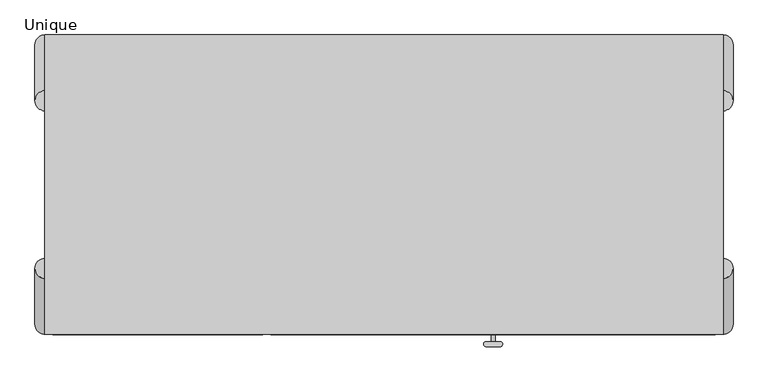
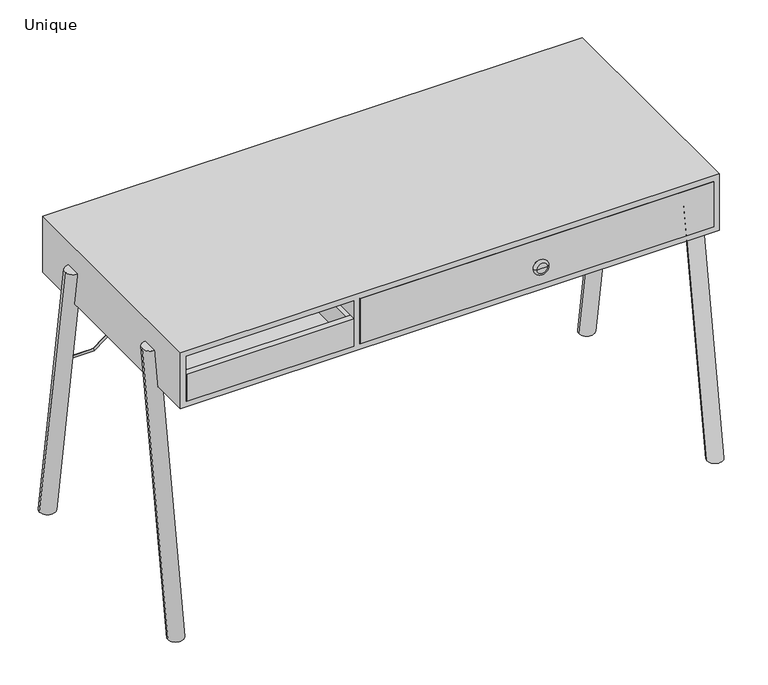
"""IFC4 building model written with IfcOpenShell, lengths in millimetres: furniture geometry, Folio Desk : Unique."""

from ifc_helpers import new_model, si_unit, point, frame, origin, place, context, project, spatial, polyline, circle_curve, ellipse_curve, trimmed, outline, extrude, source, transform, mapped, element, save
from ifc_brep_helpers import plane_surface, cylinder_surface, revolved_surface, extruded_surface, advanced_brep


def unique_a72083e6(model_context):
    return source(origin(), model_context, "Body", "SolidModel", [
        extrude(outline(polyline([(-252.5, -25.0), (-655.0, -25.0), (-655.0, -15.0), (-252.5, -15.0), (-252.5, -25.0)])), frame((0.0, 0.0, 645.0), z_axis=(0.0, 0.0, 1.0), x_axis=(1.0, 0.0, 0.0)), (0.0, 0.0, 1.0), 63.0),
        advanced_brep(
        [(222.75, -601.0, 695.0), (214.75, -601.0, 695.0), (218.75, -601.0, 695.0), (222.75, -615.0, 695.0), (214.75, -615.0, 695.0), (232.75, -615.0, 695.0), (204.75, -615.0, 695.0), (232.75, -625.0, 695.0), (204.75, -625.0, 695.0), (218.75, -625.0, 695.0)],
        [
            (0, 1, circle_curve(frame((218.75, -601.0, 695.0), z_axis=(0.0, 1.0, 0.0), x_axis=(-1.0, 0.0, 0.0)), 4.0)),
            (1, 2),
            (2, 0),
            (1, 0, circle_curve(frame((218.75, -601.0, 695.0), z_axis=(0.0, 1.0, 0.0), x_axis=(-1.0, 0.0, 0.0)), 4.0)),
            (3, 4, circle_curve(frame((218.75, -615.0, 695.0), z_axis=(0.0, 1.0, 0.0), x_axis=(-1.0, 0.0, 0.0)), 4.0)),
            (4, 1),
            (0, 3),
            (4, 3, circle_curve(frame((218.75, -615.0, 695.0), z_axis=(0.0, 1.0, 0.0), x_axis=(-1.0, 0.0, 0.0)), 4.0)),
            (5, 6, circle_curve(frame((218.75, -615.0, 695.0), z_axis=(0.0, 1.0, 0.0), x_axis=(-1.0, 0.0, 0.0)), 14.0)),
            (6, 4),
            (3, 5),
            (6, 5, circle_curve(frame((218.75, -615.0, 695.0), z_axis=(0.0, 1.0, 0.0), x_axis=(-1.0, 0.0, 0.0)), 14.0)),
            (7, 8, circle_curve(frame((218.75, -625.0, 695.0), z_axis=(0.0, 1.0, 0.0), x_axis=(-1.0, 0.0, 0.0)), 14.0)),
            (8, 6, circle_curve(frame((204.75, -620.0, 695.0), z_axis=(0.0, 0.0, -1.0), x_axis=(1.0, 0.0, 0.0)), 5.0)),
            (5, 7, circle_curve(frame((232.75, -620.0, 695.0), z_axis=(0.0, 0.0, -1.0), x_axis=(-1.0, 0.0, 0.0)), 5.0)),
            (8, 7, circle_curve(frame((218.75, -625.0, 695.0), z_axis=(0.0, 1.0, 0.0), x_axis=(-1.0, 0.0, 0.0)), 14.0)),
            (9, 8),
            (7, 9),
        ],
        [
            plane_surface(frame((218.75, -601.0, 695.0), z_axis=(0.0, 1.0, 0.0), x_axis=(-1.0, 0.0, 0.0))),
            cylinder_surface(frame((218.75, -601.0, 695.0), z_axis=(0.0, -1.0, 0.0), x_axis=(-1.0, 0.0, 0.0)), 4.0),
            plane_surface(frame((218.75, -615.0, 695.0), z_axis=(0.0, 1.0, 0.0), x_axis=(-1.0, 0.0, 0.0))),
            revolved_surface(trimmed(ellipse_curve(frame((204.75, -620.0, 695.0), z_axis=(0.0, 0.0, 1.0), x_axis=(1.0, 0.0, 0.0)), 5.0, 5.0), [point((204.75, -615.0, 695.0))], [point((204.75, -625.0, 695.0))], True, "CARTESIAN"), (218.75, -601.0, 695.0), (0.0, -1.0, 0.0)),
            plane_surface(frame((218.75, -625.0, 695.0), z_axis=(0.0, -1.0, 0.0), x_axis=(-1.0, 0.0, 0.0))),
        ],
        [
            (0, [[1, 2, 3]]),
            (0, [[4, -3, -2]]),
            (1, [[5, 6, -1, 7]]),
            (1, [[8, -7, -4, -6]]),
            (2, [[9, 10, -5, 11]]),
            (2, [[12, -11, -8, -10]]),
            (3, [[13, 14, -9, 15]]),
            (3, [[16, -15, -12, -14]]),
            (4, [[17, -13, 18]]),
            (4, [[-18, -16, -17]]),
        ],
    ),
        extrude(outline(polyline([(664.5, -601.0), (-227.0, -601.0), (-227.0, -586.0), (664.5, -586.0), (664.5, -601.0)])), frame((0.0, 0.0, 635.0), z_axis=(0.0, 0.0, 1.0), x_axis=(1.0, 0.0, 0.0)), (0.0, 0.0, 1.0), 120.0),
        extrude(outline(polyline([(-243.0, -601.0), (-664.5, -601.0), (-664.5, -586.0), (-243.0, -586.0), (-243.0, -601.0)])), frame((0.0, 0.0, 635.0), z_axis=(0.0, 0.0, 1.0), x_axis=(1.0, 0.0, 0.0)), (0.0, 0.0, 1.0), 73.0),
        extrude(outline(polyline([(635.0, -227.5), (635.0, 665.0), (755.0, 665.0), (755.0, 655.0), (645.0, 655.0), (645.0, -217.5), (755.0, -217.5), (755.0, -227.5), (635.0, -227.5)])), frame((0.0, -586.0, 0.0), z_axis=(0.0, 1.0, 0.0), x_axis=(0.0, 0.0, 1.0)), (0.0, 0.0, 1.0), 571.0),
        extrude(outline(polyline([(635.0, -664.5), (635.0, -243.0), (708.0, -243.0), (708.0, -252.5), (645.0, -252.5), (645.0, -655.0), (708.0, -655.0), (708.0, -664.5), (635.0, -664.5)])), frame((0.0, -586.0, 0.0), z_axis=(0.0, 1.0, 0.0), x_axis=(0.0, 0.0, 1.0)), (0.0, 0.0, 1.0), 571.0),
        advanced_brep(
        [(665.0, -91.0, 445.5), (665.0, -91.0, 440.5), (604.1635117, -91.0, 440.5), (605.8364883, -91.0, 445.5), (351.7119318, -91.0, 636.9965888), (348.7028567, -91.0, 633.0034112)],
        [
            (0, 1, circle_curve(frame((665.0, -91.0, 443.0), z_axis=(1.0, 0.0, 0.0), x_axis=(0.0, 0.0, -1.0)), 2.5)),
            (1, 0, circle_curve(frame((665.0, -91.0, 443.0), z_axis=(1.0, 0.0, 0.0), x_axis=(0.0, 0.0, -1.0)), 2.5)),
            (1, 2),
            (2, 3, ellipse_curve(frame((605.0, -91.0, 443.0), z_axis=(0.9483236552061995, 0.0, -0.31730465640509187), x_axis=(0.31730465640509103, 0.0, 0.9483236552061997)), 2.6362308, 2.5)),
            (3, 0),
            (3, 2, ellipse_curve(frame((605.0, -91.0, 443.0), z_axis=(0.9483236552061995, 0.0, -0.31730465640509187), x_axis=(0.31730465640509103, 0.0, 0.9483236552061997)), 2.6362308, 2.5)),
            (4, 5, circle_curve(frame((350.2073942, -91.0, 635.0), z_axis=(-0.7986355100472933, 0.0, 0.6018150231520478), x_axis=(-0.6018150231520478, 0.0, -0.7986355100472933)), 2.5)),
            (5, 4, circle_curve(frame((350.2073942, -91.0, 635.0), z_axis=(-0.7986355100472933, 0.0, 0.6018150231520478), x_axis=(-0.6018150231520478, 0.0, -0.7986355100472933)), 2.5)),
            (2, 5),
            (4, 3),
        ],
        [
            plane_surface(frame((665.0, -91.0, 443.0), z_axis=(1.0, 0.0, 0.0), x_axis=(0.0, -1.0, 0.0))),
            cylinder_surface(frame((665.0, -91.0, 443.0), z_axis=(1.0, 0.0, 0.0), x_axis=(0.0, 0.0, -1.0)), 2.5),
            plane_surface(frame((350.2073942, -91.0, 635.0), z_axis=(-0.7986355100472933, 0.0, 0.6018150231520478), x_axis=(0.0, -1.0, 0.0))),
            cylinder_surface(frame((605.0, -91.0, 443.0), z_axis=(0.7986355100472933, 0.0, -0.6018150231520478), x_axis=(-0.6018150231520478, 0.0, -0.7986355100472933)), 2.5),
        ],
        [
            (0, [[1, 2]]),
            (1, [[-2, 3, 4, 5]]),
            (1, [[-1, -5, 6, -3]]),
            (2, [[7, 8]]),
            (3, [[-4, 9, -7, 10]]),
            (3, [[-6, -10, -8, -9]]),
        ],
    ),
        advanced_brep(
        [(-665.0, -91.0, 440.5), (-665.0, -91.0, 445.5), (-604.1635117, -91.0, 440.5), (-605.8364883, -91.0, 445.5), (-348.7028567, -91.0, 633.0034112), (-351.7119318, -91.0, 636.9965888)],
        [
            (0, 1, circle_curve(frame((-665.0, -91.0, 443.0), z_axis=(-1.0, 0.0, 0.0), x_axis=(0.0, 0.0, 1.0)), 2.5)),
            (1, 0, circle_curve(frame((-665.0, -91.0, 443.0), z_axis=(-1.0, 0.0, 0.0), x_axis=(0.0, 0.0, 1.0)), 2.5)),
            (0, 2),
            (2, 3, ellipse_curve(frame((-605.0, -91.0, 443.0), z_axis=(-0.9483236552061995, 0.0, -0.31730465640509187), x_axis=(-0.31730465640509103, 0.0, 0.9483236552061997)), 2.6362308, 2.5)),
            (3, 1),
            (3, 2, ellipse_curve(frame((-605.0, -91.0, 443.0), z_axis=(-0.9483236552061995, 0.0, -0.31730465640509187), x_axis=(-0.31730465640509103, 0.0, 0.9483236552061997)), 2.6362308, 2.5)),
            (4, 5, circle_curve(frame((-350.2073942, -91.0, 635.0), z_axis=(0.7986355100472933, 0.0, 0.6018150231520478), x_axis=(-0.6018150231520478, 0.0, 0.7986355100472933)), 2.5)),
            (5, 4, circle_curve(frame((-350.2073942, -91.0, 635.0), z_axis=(0.7986355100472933, 0.0, 0.6018150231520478), x_axis=(-0.6018150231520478, 0.0, 0.7986355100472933)), 2.5)),
            (2, 4),
            (5, 3),
        ],
        [
            plane_surface(frame((-665.0, -91.0, 443.0), z_axis=(-1.0, 0.0, 0.0), x_axis=(0.0, -1.0, 0.0))),
            cylinder_surface(frame((-665.0, -91.0, 443.0), z_axis=(-1.0, 0.0, 0.0), x_axis=(0.0, 0.0, 1.0)), 2.5),
            plane_surface(frame((-350.2073942, -91.0, 635.0), z_axis=(0.7986355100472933, 0.0, 0.6018150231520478), x_axis=(0.0, -1.0, 0.0))),
            cylinder_surface(frame((-605.0, -91.0, 443.0), z_axis=(-0.7986355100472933, 0.0, -0.6018150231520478), x_axis=(-0.6018150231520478, 0.0, 0.7986355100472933)), 2.5),
        ],
        [
            (0, [[1, 2]]),
            (1, [[-1, 3, 4, 5]]),
            (1, [[-2, -5, 6, -3]]),
            (2, [[7, 8]]),
            (3, [[-4, 9, -8, 10]]),
            (3, [[-6, -10, -7, -9]]),
        ],
    ),
        extrude(outline(polyline([(-242.5, -15.0), (-665.0, -15.0), (-665.0, 0.0), (-242.5, 0.0), (-242.5, -15.0)])), frame((0.0, 0.0, 635.0), z_axis=(0.0, 0.0, 1.0), x_axis=(1.0, 0.0, 0.0)), (0.0, 0.0, 1.0), 120.0),
        extrude(outline(polyline([(665.0, -15.0), (-227.5, -15.0), (-227.5, 0.0), (665.0, 0.0), (665.0, -15.0)])), frame((0.0, 0.0, 635.0), z_axis=(0.0, 0.0, 1.0), x_axis=(1.0, 0.0, 0.0)), (0.0, 0.0, 1.0), 120.0),
        advanced_brep(
        [(700.0, -132.0, 708.0), (680.0, -112.0, 708.0), (680.0, -152.0, 708.0), (700.0, -20.0, 0.0), (660.0, -20.0, 0.0), (660.0, -118.079096, 620.0), (680.0, -98.079096, 620.0), (680.0, -138.079096, 620.0)],
        [
            (0, 1, circle_curve(frame((680.0, -132.0, 708.0), z_axis=(0.0, 0.0, 1.0), x_axis=(-1.0, 0.0, 0.0)), 20.0)),
            (1, 2),
            (2, 0, circle_curve(frame((680.0, -132.0, 708.0), z_axis=(0.0, 0.0, 1.0), x_axis=(-1.0, 0.0, 0.0)), 20.0)),
            (3, 4, circle_curve(frame((680.0, -20.0, 0.0), z_axis=(0.0, 0.0, -1.0), x_axis=(-1.0, 0.0, 0.0)), 20.0)),
            (4, 3, circle_curve(frame((680.0, -20.0, 0.0), z_axis=(0.0, 0.0, -1.0), x_axis=(-1.0, 0.0, 0.0)), 20.0)),
            (4, 5),
            (5, 6, circle_curve(frame((680.0, -118.079096, 620.0), z_axis=(0.0, 0.0, -1.0), x_axis=(-1.0, 0.0, 0.0)), 20.0)),
            (6, 1),
            (0, 3),
            (2, 7),
            (7, 5, circle_curve(frame((680.0, -118.079096, 620.0), z_axis=(0.0, 0.0, -1.0), x_axis=(-1.0, 0.0, 0.0)), 20.0)),
            (6, 7),
        ],
        [
            plane_surface(frame((680.0, -132.0, 708.0), z_axis=(0.0, 0.0, 1.0), x_axis=(0.0, 1.0, 0.0))),
            plane_surface(frame((680.0, -20.0, 0.0), z_axis=(0.0, 0.0, -1.0), x_axis=(0.0, 1.0, 0.0))),
            extruded_surface(trimmed(circle_curve(frame((680.0, -20.0, 0.0), z_axis=(0.0, 0.0, 1.0), x_axis=(-1.0, 0.0, 0.0)), 20.0), [point((700.0, -20.0, 0.0))], [point((660.0, -20.0, 0.0))], True, "CARTESIAN"), (0.0, -112.0, 708.0), 716.8040178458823),
            extruded_surface(trimmed(circle_curve(frame((680.0, -20.0, 0.0), z_axis=(0.0, 0.0, 1.0), x_axis=(-1.0, 0.0, 0.0)), 20.0), [point((660.0, -20.0, 0.0))], [point((700.0, -20.0, 0.0))], True, "CARTESIAN"), (0.0, -112.0, 708.0), 716.8040178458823),
            plane_surface(frame((680.0, 0.0, 770.0), z_axis=(-1.0, 0.0, 0.0), x_axis=(0.0, -1.0, 0.0))),
            plane_surface(frame((680.0, 0.0, 620.0), z_axis=(0.0, 0.0, 1.0), x_axis=(0.0, -1.0, 0.0))),
        ],
        [
            (0, [[1, 2, 3]]),
            (1, [[4, 5]]),
            (2, [[-5, 6, 7, 8, -1, 9]]),
            (3, [[-4, -9, -3, 10, 11, -6]]),
            (4, [[12, -10, -2, -8]]),
            (5, [[-12, -7, -11]]),
        ],
    ),
        advanced_brep(
        [(680.0, -488.0, 708.0), (700.0, -468.0, 708.0), (680.0, -448.0, 708.0), (700.0, -580.0, 0.0), (660.0, -580.0, 0.0), (680.0, -501.920904, 620.0), (660.0, -481.920904, 620.0), (680.0, -461.920904, 620.0)],
        [
            (0, 1, circle_curve(frame((680.0, -468.0, 708.0), z_axis=(0.0, 0.0, 1.0), x_axis=(-1.0, 0.0, 0.0)), 20.0)),
            (1, 2, circle_curve(frame((680.0, -468.0, 708.0), z_axis=(0.0, 0.0, 1.0), x_axis=(-1.0, 0.0, 0.0)), 20.0)),
            (2, 0),
            (3, 4, circle_curve(frame((680.0, -580.0, 0.0), z_axis=(0.0, 0.0, -1.0), x_axis=(-1.0, 0.0, 0.0)), 20.0)),
            (4, 3, circle_curve(frame((680.0, -580.0, 0.0), z_axis=(0.0, 0.0, -1.0), x_axis=(-1.0, 0.0, 0.0)), 20.0)),
            (3, 1),
            (0, 5),
            (5, 6, circle_curve(frame((680.0, -481.920904, 620.0), z_axis=(0.0, 0.0, -1.0), x_axis=(-1.0, 0.0, 0.0)), 20.0)),
            (6, 4),
            (6, 7, circle_curve(frame((680.0, -481.920904, 620.0), z_axis=(0.0, 0.0, -1.0), x_axis=(-1.0, 0.0, 0.0)), 20.0)),
            (7, 2),
            (7, 5),
        ],
        [
            plane_surface(frame((680.0, -468.0, 708.0), z_axis=(0.0, 0.0, 1.0), x_axis=(0.0, 1.0, 0.0))),
            plane_surface(frame((680.0, -580.0, 0.0), z_axis=(0.0, 0.0, -1.0), x_axis=(0.0, 1.0, 0.0))),
            extruded_surface(trimmed(circle_curve(frame((680.0, -580.0, 0.0), z_axis=(0.0, 0.0, 1.0), x_axis=(-1.0, 0.0, 0.0)), 20.0), [point((660.0, -580.0, 0.0))], [point((700.0, -580.0, 0.0))], True, "CARTESIAN"), (0.0, 112.0, 708.0), 716.8040178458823),
            extruded_surface(trimmed(circle_curve(frame((680.0, -580.0, 0.0), z_axis=(0.0, 0.0, 1.0), x_axis=(-1.0, 0.0, 0.0)), 20.0), [point((700.0, -580.0, 0.0))], [point((660.0, -580.0, 0.0))], True, "CARTESIAN"), (0.0, 112.0, 708.0), 716.8040178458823),
            plane_surface(frame((680.0, 0.0, 770.0), z_axis=(-1.0, 0.0, 0.0), x_axis=(0.0, -1.0, 0.0))),
            plane_surface(frame((680.0, 0.0, 620.0), z_axis=(0.0, 0.0, 1.0), x_axis=(0.0, -1.0, 0.0))),
        ],
        [
            (0, [[1, 2, 3]]),
            (1, [[4, 5]]),
            (2, [[-4, 6, -1, 7, 8, 9]]),
            (3, [[-5, -9, 10, 11, -2, -6]]),
            (4, [[12, -7, -3, -11]]),
            (5, [[-12, -10, -8]]),
        ],
    ),
        advanced_brep(
        [(-680.0, -112.0, 708.0), (-700.0, -132.0, 708.0), (-680.0, -152.0, 708.0), (-700.0, -20.0, 0.0), (-660.0, -20.0, 0.0), (-680.0, -98.079096, 620.0), (-660.0, -118.079096, 620.0), (-680.0, -138.079096, 620.0)],
        [
            (0, 1, circle_curve(frame((-680.0, -132.0, 708.0), z_axis=(0.0, 0.0, 1.0), x_axis=(1.0, 0.0, 0.0)), 20.0)),
            (1, 2, circle_curve(frame((-680.0, -132.0, 708.0), z_axis=(0.0, 0.0, 1.0), x_axis=(1.0, 0.0, 0.0)), 20.0)),
            (2, 0),
            (3, 4, circle_curve(frame((-680.0, -20.0, 0.0), z_axis=(0.0, 0.0, -1.0), x_axis=(1.0, 0.0, 0.0)), 20.0)),
            (4, 3, circle_curve(frame((-680.0, -20.0, 0.0), z_axis=(0.0, 0.0, -1.0), x_axis=(1.0, 0.0, 0.0)), 20.0)),
            (3, 1),
            (0, 5),
            (5, 6, circle_curve(frame((-680.0, -118.079096, 620.0), z_axis=(0.0, 0.0, -1.0), x_axis=(1.0, 0.0, 0.0)), 20.0)),
            (6, 4),
            (6, 7, circle_curve(frame((-680.0, -118.079096, 620.0), z_axis=(0.0, 0.0, -1.0), x_axis=(1.0, 0.0, 0.0)), 20.0)),
            (7, 2),
            (5, 7),
        ],
        [
            plane_surface(frame((-680.0, -132.0, 708.0), z_axis=(0.0, 0.0, 1.0), x_axis=(0.0, -1.0, 0.0))),
            plane_surface(frame((-680.0, -20.0, 0.0), z_axis=(0.0, 0.0, -1.0), x_axis=(0.0, -1.0, 0.0))),
            extruded_surface(trimmed(circle_curve(frame((-680.0, -20.0, 0.0), z_axis=(0.0, 0.0, 1.0), x_axis=(1.0, 0.0, 0.0)), 20.0), [point((-660.0, -20.0, 0.0))], [point((-700.0, -20.0, 0.0))], True, "CARTESIAN"), (0.0, -112.0, 708.0), 716.8040178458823),
            extruded_surface(trimmed(circle_curve(frame((-680.0, -20.0, 0.0), z_axis=(0.0, 0.0, 1.0), x_axis=(1.0, 0.0, 0.0)), 20.0), [point((-700.0, -20.0, 0.0))], [point((-660.0, -20.0, 0.0))], True, "CARTESIAN"), (0.0, -112.0, 708.0), 716.8040178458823),
            plane_surface(frame((-617.2983557, 0.0, 620.0), z_axis=(0.0, 0.0, 1.0), x_axis=(0.0, -1.0, 0.0))),
            plane_surface(frame((-680.0, 0.0, 620.0), z_axis=(1.0, 0.0, 0.0), x_axis=(0.0, -1.0, 0.0))),
        ],
        [
            (0, [[1, 2, 3]]),
            (1, [[4, 5]]),
            (2, [[-4, 6, -1, 7, 8, 9]]),
            (3, [[-5, -9, 10, 11, -2, -6]]),
            (4, [[12, -10, -8]]),
            (5, [[-12, -7, -3, -11]]),
        ],
    ),
        advanced_brep(
        [(-700.0, -468.0, 708.0), (-680.0, -488.0, 708.0), (-680.0, -448.0, 708.0), (-700.0, -580.0, 0.0), (-660.0, -580.0, 0.0), (-660.0, -481.920904, 620.0), (-680.0, -501.920904, 620.0), (-680.0, -461.920904, 620.0)],
        [
            (0, 1, circle_curve(frame((-680.0, -468.0, 708.0), z_axis=(0.0, 0.0, 1.0), x_axis=(1.0, 0.0, 0.0)), 20.0)),
            (1, 2),
            (2, 0, circle_curve(frame((-680.0, -468.0, 708.0), z_axis=(0.0, 0.0, 1.0), x_axis=(1.0, 0.0, 0.0)), 20.0)),
            (3, 4, circle_curve(frame((-680.0, -580.0, 0.0), z_axis=(0.0, 0.0, -1.0), x_axis=(1.0, 0.0, 0.0)), 20.0)),
            (4, 3, circle_curve(frame((-680.0, -580.0, 0.0), z_axis=(0.0, 0.0, -1.0), x_axis=(1.0, 0.0, 0.0)), 20.0)),
            (4, 5),
            (5, 6, circle_curve(frame((-680.0, -481.920904, 620.0), z_axis=(0.0, 0.0, -1.0), x_axis=(1.0, 0.0, 0.0)), 20.0)),
            (6, 1),
            (0, 3),
            (2, 7),
            (7, 5, circle_curve(frame((-680.0, -481.920904, 620.0), z_axis=(0.0, 0.0, -1.0), x_axis=(1.0, 0.0, 0.0)), 20.0)),
            (7, 6),
        ],
        [
            plane_surface(frame((-680.0, -468.0, 708.0), z_axis=(0.0, 0.0, 1.0), x_axis=(0.0, -1.0, 0.0))),
            plane_surface(frame((-680.0, -580.0, 0.0), z_axis=(0.0, 0.0, -1.0), x_axis=(0.0, -1.0, 0.0))),
            extruded_surface(trimmed(circle_curve(frame((-680.0, -580.0, 0.0), z_axis=(0.0, 0.0, 1.0), x_axis=(1.0, 0.0, 0.0)), 20.0), [point((-700.0, -580.0, 0.0))], [point((-660.0, -580.0, 0.0))], True, "CARTESIAN"), (0.0, 112.0, 708.0), 716.8040178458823),
            extruded_surface(trimmed(circle_curve(frame((-680.0, -580.0, 0.0), z_axis=(0.0, 0.0, 1.0), x_axis=(1.0, 0.0, 0.0)), 20.0), [point((-660.0, -580.0, 0.0))], [point((-700.0, -580.0, 0.0))], True, "CARTESIAN"), (0.0, 112.0, 708.0), 716.8040178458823),
            plane_surface(frame((-617.2983557, 0.0, 620.0), z_axis=(0.0, 0.0, 1.0), x_axis=(0.0, -1.0, 0.0))),
            plane_surface(frame((-680.0, 0.0, 620.0), z_axis=(1.0, 0.0, 0.0), x_axis=(0.0, -1.0, 0.0))),
        ],
        [
            (0, [[1, 2, 3]]),
            (1, [[4, 5]]),
            (2, [[-5, 6, 7, 8, -1, 9]]),
            (3, [[-4, -9, -3, 10, 11, -6]]),
            (4, [[12, -7, -11]]),
            (5, [[-12, -10, -2, -8]]),
        ],
    ),
        extrude(outline(polyline([(770.0, 680.0), (770.0, -680.0), (620.0, -680.0), (620.0, 680.0), (770.0, 680.0)]), holes=[polyline([(755.0, -242.5), (635.0, -242.5), (635.0, -665.0), (755.0, -665.0), (755.0, -242.5)]), polyline([(635.0, -227.5), (755.0, -227.5), (755.0, 665.0), (635.0, 665.0), (635.0, -227.5)])]), frame((0.0, -600.0, 0.0), z_axis=(0.0, 1.0, 0.0), x_axis=(0.0, 0.0, 1.0)), (0.0, 0.0, 1.0), 600.0),
    ])


if __name__ == "__main__":
    model = new_model("IFC4")
    model_context = context("Model", 3, world=origin())
    ifc_project = project(units=[si_unit("LENGTHUNIT", "METRE", prefix="MILLI")], contexts=[model_context])
    site = spatial("IfcSite", under=ifc_project)
    building = spatial("IfcBuilding", under=site)
    placement = place(None, origin())
    unique_shape = unique_a72083e6(model_context)
    element("IfcFurniture", 1, ObjectType="Folio Desk : Unique", at=placement, inside=building, context=model_context, shape_type="MappedRepresentation", body=[
        mapped(unique_shape, transform((0.0, 0.0, 0.0), x_axis=(1.0, 0.0, 0.0), y_axis=(0.0, 1.0, 0.0), z_axis=(0.0, 0.0, 1.0))),
    ])
    save(model, "model.ifc")
